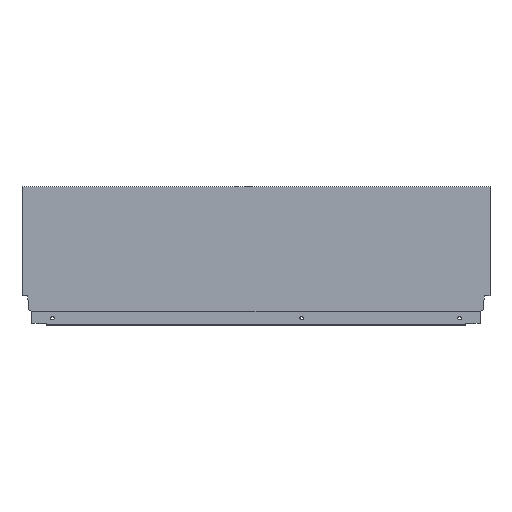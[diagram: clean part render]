
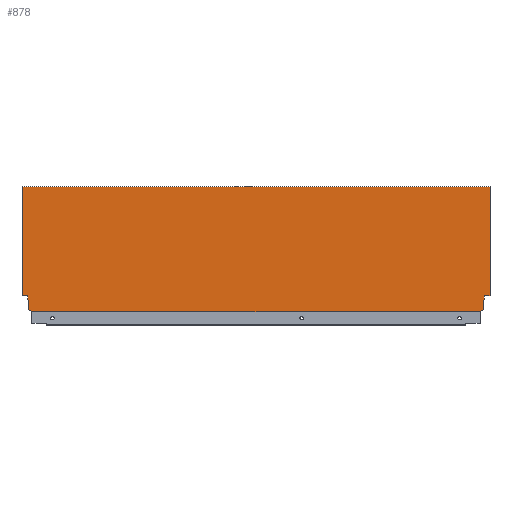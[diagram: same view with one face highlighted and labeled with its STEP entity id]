
A CAD part, top view. The second image highlights one B-rep face of the part: STEP entity #878.
In plain terms, the highlighted planar face has unit normal (0, 0, 1).
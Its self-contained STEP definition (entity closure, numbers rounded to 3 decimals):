
#65 = ORIENTED_EDGE ( 'NONE', *, *, #632, .F. ) ;
#66 = ORIENTED_EDGE ( 'NONE', *, *, #629, .F. ) ;
#71 = ORIENTED_EDGE ( 'NONE', *, *, #633, .T. ) ;
#115 = ORIENTED_EDGE ( 'NONE', *, *, #634, .F. ) ;
#116 = ORIENTED_EDGE ( 'NONE', *, *, #631, .F. ) ;
#118 = ORIENTED_EDGE ( 'NONE', *, *, #628, .F. ) ;
#119 = ORIENTED_EDGE ( 'NONE', *, *, #627, .T. ) ;
#121 = ORIENTED_EDGE ( 'NONE', *, *, #636, .F. ) ;
#128 = ORIENTED_EDGE ( 'NONE', *, *, #638, .F. ) ;
#130 = ORIENTED_EDGE ( 'NONE', *, *, #635, .F. ) ;
#131 = ORIENTED_EDGE ( 'NONE', *, *, #637, .F. ) ;
#132 = ORIENTED_EDGE ( 'NONE', *, *, #639, .F. ) ;
#133 = ORIENTED_EDGE ( 'NONE', *, *, #640, .F. ) ;
#134 = ORIENTED_EDGE ( 'NONE', *, *, #641, .F. ) ;
#229 = DIRECTION ( 'NONE',  ( 1., 0., 0. ) ) ;
#230 = DIRECTION ( 'NONE',  ( 0., 0., 1. ) ) ;
#239 = PLANE ( 'NONE',  #497 ) ;
#251 = CARTESIAN_POINT ( 'NONE',  ( -615., 0., 7.5 ) ) ;
#497 = AXIS2_PLACEMENT_3D ( 'NONE', #251, #230, #229 ) ;
#565 = EDGE_LOOP ( 'NONE', ( #71, #65, #66, #115, #116, #118, #119, #121, #128, #130, #131, #132, #133, #134 ) ) ;
#627 = EDGE_CURVE ( 'NONE', #1263, #1161, #779, .T. ) ;
#628 = EDGE_CURVE ( 'NONE', #1263, #1262, #771, .T. ) ;
#629 = EDGE_CURVE ( 'NONE', #1226, #1235, #767, .T. ) ;
#631 = EDGE_CURVE ( 'NONE', #1262, #1245, #761, .T. ) ;
#632 = EDGE_CURVE ( 'NONE', #1235, #1253, #759, .T. ) ;
#633 = EDGE_CURVE ( 'NONE', #1243, #1253, #757, .T. ) ;
#634 = EDGE_CURVE ( 'NONE', #1245, #1226, #755, .T. ) ;
#635 = EDGE_CURVE ( 'NONE', #1250, #1244, #753, .T. ) ;
#636 = EDGE_CURVE ( 'NONE', #1234, #1161, #751, .T. ) ;
#637 = EDGE_CURVE ( 'NONE', #1275, #1250, #749, .T. ) ;
#638 = EDGE_CURVE ( 'NONE', #1244, #1234, #747, .T. ) ;
#639 = EDGE_CURVE ( 'NONE', #1246, #1275, #726, .T. ) ;
#640 = EDGE_CURVE ( 'NONE', #1164, #1246, #724, .T. ) ;
#641 = EDGE_CURVE ( 'NONE', #1243, #1164, #721, .T. ) ;
#720 = VECTOR ( 'NONE', #1049, 1000. ) ;
#721 = LINE ( 'NONE', #1050, #720 ) ;
#723 = VECTOR ( 'NONE', #1052, 1000. ) ;
#724 = LINE ( 'NONE', #1053, #723 ) ;
#725 = VECTOR ( 'NONE', #1054, 1000. ) ;
#726 = LINE ( 'NONE', #1055, #725 ) ;
#728 = VECTOR ( 'NONE', #1056, 1000. ) ;
#747 = LINE ( 'NONE', #1057, #728 ) ;
#748 = VECTOR ( 'NONE', #1058, 1000. ) ;
#749 = LINE ( 'NONE', #1059, #748 ) ;
#750 = VECTOR ( 'NONE', #1060, 1000. ) ;
#751 = LINE ( 'NONE', #1061, #750 ) ;
#752 = VECTOR ( 'NONE', #1063, 1000. ) ;
#753 = LINE ( 'NONE', #1064, #752 ) ;
#754 = VECTOR ( 'NONE', #1066, 1000. ) ;
#755 = LINE ( 'NONE', #1067, #754 ) ;
#756 = VECTOR ( 'NONE', #1069, 1000. ) ;
#757 = LINE ( 'NONE', #1070, #756 ) ;
#758 = VECTOR ( 'NONE', #1072, 1000. ) ;
#759 = LINE ( 'NONE', #1074, #758 ) ;
#760 = VECTOR ( 'NONE', #1075, 1000. ) ;
#761 = LINE ( 'NONE', #1076, #760 ) ;
#764 = VECTOR ( 'NONE', #1080, 1000. ) ;
#767 = LINE ( 'NONE', #1081, #764 ) ;
#769 = VECTOR ( 'NONE', #1083, 1000. ) ;
#771 = LINE ( 'NONE', #1095, #769 ) ;
#773 = VECTOR ( 'NONE', #1086, 1000. ) ;
#779 = LINE ( 'NONE', #1088, #773 ) ;
#878 = ADVANCED_FACE ( 'NONE', ( #1397 ), #239, .T. ) ;
#1049 = DIRECTION ( 'NONE',  ( 1., 0., 0. ) ) ;
#1050 = CARTESIAN_POINT ( 'NONE',  ( -615., 164.7, 7.5 ) ) ;
#1052 = DIRECTION ( 'NONE',  ( 0., -1., 0. ) ) ;
#1053 = CARTESIAN_POINT ( 'NONE',  ( 0., 0., 7.5 ) ) ;
#1054 = DIRECTION ( 'NONE',  ( -1., 0., 0. ) ) ;
#1055 = CARTESIAN_POINT ( 'NONE',  ( 0., 21.2, 7.5 ) ) ;
#1056 = DIRECTION ( 'NONE',  ( -0.94, -0.342, 0. ) ) ;
#1057 = CARTESIAN_POINT ( 'NONE',  ( -8.9, 2.64, 7.5 ) ) ;
#1058 = DIRECTION ( 'NONE',  ( -0.174, -0.985, 0. ) ) ;
#1059 = CARTESIAN_POINT ( 'NONE',  ( -7.06, 21.2, 7.5 ) ) ;
#1060 = DIRECTION ( 'NONE',  ( 0., -1., 0. ) ) ;
#1061 = CARTESIAN_POINT ( 'NONE',  ( -13.004, 1.146, 7.5 ) ) ;
#1063 = DIRECTION ( 'NONE',  ( 0., -1., 0. ) ) ;
#1064 = CARTESIAN_POINT ( 'NONE',  ( -8.9, 10.765, 7.5 ) ) ;
#1066 = DIRECTION ( 'NONE',  ( 0., 1., 0. ) ) ;
#1067 = CARTESIAN_POINT ( 'NONE',  ( -606.1, 10.765, 7.5 ) ) ;
#1069 = DIRECTION ( 'NONE',  ( 0., -1., 0. ) ) ;
#1070 = CARTESIAN_POINT ( 'NONE',  ( -615., 0., 7.5 ) ) ;
#1072 = DIRECTION ( 'NONE',  ( -1., 0., 0. ) ) ;
#1074 = CARTESIAN_POINT ( 'NONE',  ( -620., 21.2, 7.5 ) ) ;
#1075 = DIRECTION ( 'NONE',  ( -0.94, 0.342, 0. ) ) ;
#1076 = CARTESIAN_POINT ( 'NONE',  ( -606.1, 2.64, 7.5 ) ) ;
#1080 = DIRECTION ( 'NONE',  ( -0.174, 0.985, 0. ) ) ;
#1081 = CARTESIAN_POINT ( 'NONE',  ( -607.94, 21.2, 7.5 ) ) ;
#1083 = DIRECTION ( 'NONE',  ( 0., 1., 0. ) ) ;
#1086 = DIRECTION ( 'NONE',  ( 1., 0., 0. ) ) ;
#1088 = CARTESIAN_POINT ( 'NONE',  ( -615., 0., 7.5 ) ) ;
#1095 = CARTESIAN_POINT ( 'NONE',  ( -601.996, 1.146, 7.5 ) ) ;
#1161 = VERTEX_POINT ( 'NONE', #1509 ) ;
#1164 = VERTEX_POINT ( 'NONE', #1510 ) ;
#1226 = VERTEX_POINT ( 'NONE', #1487 ) ;
#1234 = VERTEX_POINT ( 'NONE', #1491 ) ;
#1235 = VERTEX_POINT ( 'NONE', #1492 ) ;
#1243 = VERTEX_POINT ( 'NONE', #1530 ) ;
#1244 = VERTEX_POINT ( 'NONE', #1529 ) ;
#1245 = VERTEX_POINT ( 'NONE', #1528 ) ;
#1246 = VERTEX_POINT ( 'NONE', #1527 ) ;
#1250 = VERTEX_POINT ( 'NONE', #1435 ) ;
#1253 = VERTEX_POINT ( 'NONE', #1469 ) ;
#1262 = VERTEX_POINT ( 'NONE', #1541 ) ;
#1263 = VERTEX_POINT ( 'NONE', #1540 ) ;
#1275 = VERTEX_POINT ( 'NONE', #1416 ) ;
#1397 = FACE_OUTER_BOUND ( 'NONE', #565, .T. ) ;
#1416 = CARTESIAN_POINT ( 'NONE',  ( -7.06, 21.2, 7.5 ) ) ;
#1435 = CARTESIAN_POINT ( 'NONE',  ( -8.9, 10.765, 7.5 ) ) ;
#1469 = CARTESIAN_POINT ( 'NONE',  ( -615., 21.2, 7.5 ) ) ;
#1487 = CARTESIAN_POINT ( 'NONE',  ( -606.1, 10.765, 7.5 ) ) ;
#1491 = CARTESIAN_POINT ( 'NONE',  ( -13.004, 1.146, 7.5 ) ) ;
#1492 = CARTESIAN_POINT ( 'NONE',  ( -607.94, 21.2, 7.5 ) ) ;
#1509 = CARTESIAN_POINT ( 'NONE',  ( -13.004, 0., 7.5 ) ) ;
#1510 = CARTESIAN_POINT ( 'NONE',  ( 0., 164.7, 7.5 ) ) ;
#1527 = CARTESIAN_POINT ( 'NONE',  ( 0., 21.2, 7.5 ) ) ;
#1528 = CARTESIAN_POINT ( 'NONE',  ( -606.1, 2.64, 7.5 ) ) ;
#1529 = CARTESIAN_POINT ( 'NONE',  ( -8.9, 2.64, 7.5 ) ) ;
#1530 = CARTESIAN_POINT ( 'NONE',  ( -615., 164.7, 7.5 ) ) ;
#1540 = CARTESIAN_POINT ( 'NONE',  ( -601.996, 0., 7.5 ) ) ;
#1541 = CARTESIAN_POINT ( 'NONE',  ( -601.996, 1.146, 7.5 ) ) ;
